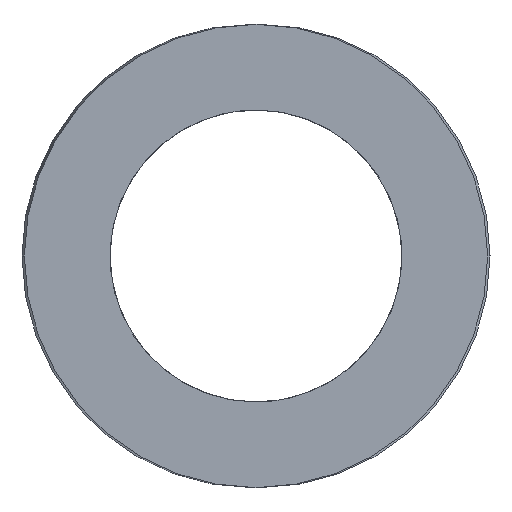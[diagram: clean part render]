
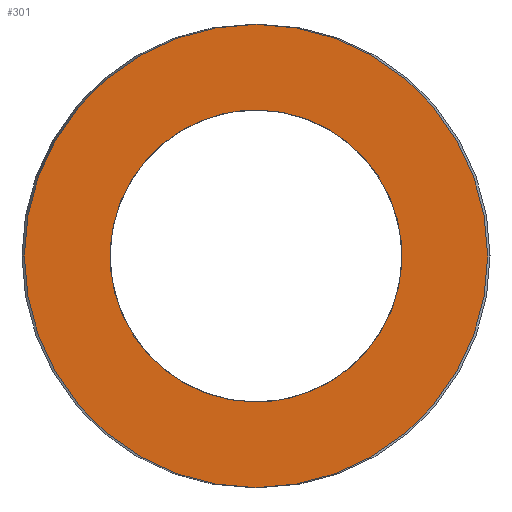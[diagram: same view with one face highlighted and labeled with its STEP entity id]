
A CAD part, left-side view. The second image highlights one B-rep face of the part: STEP entity #301.
In plain terms, the highlighted planar face has unit normal (-1, 0, 0).
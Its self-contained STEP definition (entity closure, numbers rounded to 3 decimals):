
#63=CARTESIAN_POINT('Vertex',(0.,31.1,0.)) ;
#77=CARTESIAN_POINT('Vertex',(0.,-31.1,0.)) ;
#80=CARTESIAN_POINT('Axis2P3D Location',(0.,0.,0.)) ;
#97=CARTESIAN_POINT('Axis2P3D Location',(0.,0.,0.)) ;
#232=CARTESIAN_POINT('Axis2P3D Location',(0.,15.55,0.)) ;
#242=CARTESIAN_POINT('Control Point',(0.,0.,-19.6)) ;
#243=CARTESIAN_POINT('Control Point',(0.,1.952,-19.6)) ;
#244=CARTESIAN_POINT('Control Point',(0.,3.904,-19.357)) ;
#245=CARTESIAN_POINT('Control Point',(0.,5.816,-18.871)) ;
#246=CARTESIAN_POINT('Control Point',(0.,9.478,-17.433)) ;
#247=CARTESIAN_POINT('Control Point',(0.,12.675,-15.142)) ;
#248=CARTESIAN_POINT('Control Point',(0.,14.123,-13.802)) ;
#249=CARTESIAN_POINT('Control Point',(0.,16.653,-10.789)) ;
#250=CARTESIAN_POINT('Control Point',(0.,18.368,-7.249)) ;
#251=CARTESIAN_POINT('Control Point',(0.,19.,-5.38)) ;
#252=CARTESIAN_POINT('Control Point',(0.,19.784,-1.525)) ;
#253=CARTESIAN_POINT('Control Point',(0.,19.6,2.405)) ;
#254=CARTESIAN_POINT('Control Point',(0.,19.262,4.348)) ;
#255=CARTESIAN_POINT('Control Point',(0.,18.11,8.11)) ;
#256=CARTESIAN_POINT('Control Point',(0.,16.071,11.474)) ;
#257=CARTESIAN_POINT('Control Point',(0.,14.846,13.02)) ;
#258=CARTESIAN_POINT('Control Point',(0.,12.037,15.775)) ;
#259=CARTESIAN_POINT('Control Point',(0.,8.639,17.757)) ;
#260=CARTESIAN_POINT('Control Point',(0.,6.824,18.53)) ;
#261=CARTESIAN_POINT('Control Point',(0.,4.349,19.236)) ;
#262=CARTESIAN_POINT('Control Point',(0.,1.809,19.53)) ;
#263=CARTESIAN_POINT('Control Point',(0.,1.206,19.577)) ;
#264=CARTESIAN_POINT('Control Point',(0.,0.603,19.6)) ;
#265=CARTESIAN_POINT('Control Point',(0.,0.,19.6)) ;
#266=CARTESIAN_POINT('Vertex',(0.,0.,-19.6)) ;
#268=CARTESIAN_POINT('Vertex',(0.,0.,19.6)) ;
#272=CARTESIAN_POINT('Control Point',(0.,0.,19.6)) ;
#273=CARTESIAN_POINT('Control Point',(0.,-1.952,19.6)) ;
#274=CARTESIAN_POINT('Control Point',(0.,-3.904,19.357)) ;
#275=CARTESIAN_POINT('Control Point',(0.,-5.816,18.871)) ;
#276=CARTESIAN_POINT('Control Point',(0.,-9.478,17.433)) ;
#277=CARTESIAN_POINT('Control Point',(0.,-12.675,15.142)) ;
#278=CARTESIAN_POINT('Control Point',(0.,-14.123,13.802)) ;
#279=CARTESIAN_POINT('Control Point',(0.,-16.653,10.789)) ;
#280=CARTESIAN_POINT('Control Point',(0.,-18.368,7.249)) ;
#281=CARTESIAN_POINT('Control Point',(0.,-19.,5.38)) ;
#282=CARTESIAN_POINT('Control Point',(0.,-19.784,1.525)) ;
#283=CARTESIAN_POINT('Control Point',(0.,-19.6,-2.405)) ;
#284=CARTESIAN_POINT('Control Point',(0.,-19.262,-4.348)) ;
#285=CARTESIAN_POINT('Control Point',(0.,-18.11,-8.11)) ;
#286=CARTESIAN_POINT('Control Point',(0.,-16.071,-11.474)) ;
#287=CARTESIAN_POINT('Control Point',(0.,-14.846,-13.02)) ;
#288=CARTESIAN_POINT('Control Point',(0.,-12.037,-15.775)) ;
#289=CARTESIAN_POINT('Control Point',(0.,-8.639,-17.757)) ;
#290=CARTESIAN_POINT('Control Point',(0.,-6.824,-18.53)) ;
#291=CARTESIAN_POINT('Control Point',(0.,-4.349,-19.236)) ;
#292=CARTESIAN_POINT('Control Point',(0.,-1.809,-19.53)) ;
#293=CARTESIAN_POINT('Control Point',(0.,-1.206,-19.577)) ;
#294=CARTESIAN_POINT('Control Point',(0.,-0.603,-19.6)) ;
#295=CARTESIAN_POINT('Control Point',(0.,0.,-19.6)) ;
#81=DIRECTION('Axis2P3D Direction',(1.,-0.,0.)) ;
#98=DIRECTION('Axis2P3D Direction',(1.,-0.,0.)) ;
#233=DIRECTION('Axis2P3D Direction',(-1.,0.,0.)) ;
#234=DIRECTION('Axis2P3D XDirection',(0.,1.,0.)) ;
#82=AXIS2_PLACEMENT_3D('Circle Axis2P3D',#80,#81,$) ;
#99=AXIS2_PLACEMENT_3D('Circle Axis2P3D',#97,#98,$) ;
#235=AXIS2_PLACEMENT_3D('Plane Axis2P3D',#232,#233,#234) ;
#238=ORIENTED_EDGE('',*,*,#84,.T.) ;
#239=ORIENTED_EDGE('',*,*,#101,.T.) ;
#298=ORIENTED_EDGE('',*,*,#270,.T.) ;
#299=ORIENTED_EDGE('',*,*,#296,.T.) ;
#300=FACE_BOUND('',#297,.T.) ;
#301=ADVANCED_FACE('392-B63-203',(#240,#300),#236,.T.) ;
#241=B_SPLINE_CURVE_WITH_KNOTS('',5,(#242,#243,#244,#245,#246,#247,#248,#249,#250,#251,#252,#253,#254,#255,#256,#257,#258,#259,#260,#261,#262,#263,#264,#265),.UNSPECIFIED.,.F.,.U.,(6,3,3,3,3,3,3,6),(0.,13.802,27.605,41.407,55.21,69.012,82.815,87.077),.UNSPECIFIED.) ;
#271=B_SPLINE_CURVE_WITH_KNOTS('',5,(#272,#273,#274,#275,#276,#277,#278,#279,#280,#281,#282,#283,#284,#285,#286,#287,#288,#289,#290,#291,#292,#293,#294,#295),.UNSPECIFIED.,.F.,.U.,(6,3,3,3,3,3,3,6),(0.,13.802,27.605,41.407,55.21,69.012,82.815,87.077),.UNSPECIFIED.) ;
#83=CIRCLE('generated circle',#82,31.1) ;
#100=CIRCLE('generated circle',#99,31.1) ;
#84=EDGE_CURVE('',#64,#78,#83,.F.) ;
#101=EDGE_CURVE('',#78,#64,#100,.F.) ;
#270=EDGE_CURVE('',#267,#269,#241,.T.) ;
#296=EDGE_CURVE('',#269,#267,#271,.T.) ;
#237=EDGE_LOOP('',(#238,#239)) ;
#297=EDGE_LOOP('',(#298,#299)) ;
#240=FACE_OUTER_BOUND('',#237,.T.) ;
#236=PLANE('Plane',#235) ;
#64=VERTEX_POINT('',#63) ;
#78=VERTEX_POINT('',#77) ;
#267=VERTEX_POINT('',#266) ;
#269=VERTEX_POINT('',#268) ;
